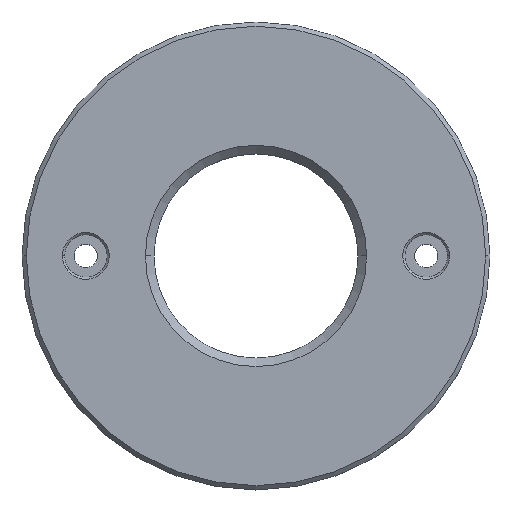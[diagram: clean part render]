
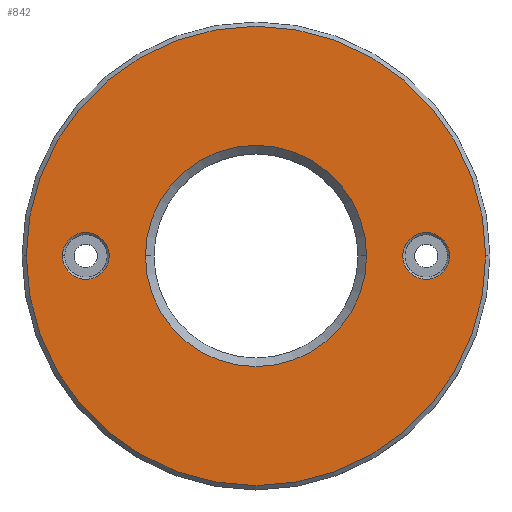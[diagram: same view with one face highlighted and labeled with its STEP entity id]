
A CAD part, top view. The second image highlights one B-rep face of the part: STEP entity #842.
In plain terms, the highlighted planar face has unit normal (0, 0, 1).
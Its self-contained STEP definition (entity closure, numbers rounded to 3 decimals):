
#1 = AXIS2_PLACEMENT_3D ( 'NONE', #379, #293, #351 ) ;
#2 = CARTESIAN_POINT ( 'NONE',  ( -54., 0., 0. ) ) ;
#26 = EDGE_CURVE ( 'NONE', #577, #708, #313, .T. ) ;
#29 = EDGE_LOOP ( 'NONE', ( #553, #287 ) ) ;
#35 = EDGE_CURVE ( 'NONE', #948, #492, #865, .T. ) ;
#51 = VERTEX_POINT ( 'NONE', #765 ) ;
#98 = AXIS2_PLACEMENT_3D ( 'NONE', #456, #649, #952 ) ;
#128 = CIRCLE ( 'NONE', #98, 54. ) ;
#137 = FACE_BOUND ( 'NONE', #734, .T. ) ;
#173 = DIRECTION ( 'NONE',  ( 1., 0., 0. ) ) ;
#183 = VERTEX_POINT ( 'NONE', #385 ) ;
#186 = AXIS2_PLACEMENT_3D ( 'NONE', #680, #981, #450 ) ;
#198 = DIRECTION ( 'NONE',  ( 1., 0., 0. ) ) ;
#241 = ORIENTED_EDGE ( 'NONE', *, *, #35, .T. ) ;
#287 = ORIENTED_EDGE ( 'NONE', *, *, #511, .T. ) ;
#293 = DIRECTION ( 'NONE',  ( 0., 0., -1. ) ) ;
#306 = EDGE_CURVE ( 'NONE', #51, #519, #478, .T. ) ;
#312 = CARTESIAN_POINT ( 'NONE',  ( 40., 0., 0. ) ) ;
#313 = CIRCLE ( 'NONE', #695, 54. ) ;
#324 = VERTEX_POINT ( 'NONE', #957 ) ;
#328 = CIRCLE ( 'NONE', #711, 26. ) ;
#351 = DIRECTION ( 'NONE',  ( 1., 0., 0. ) ) ;
#367 = DIRECTION ( 'NONE',  ( 0., 0., -1. ) ) ;
#379 = CARTESIAN_POINT ( 'NONE',  ( -40., 0., 0. ) ) ;
#385 = CARTESIAN_POINT ( 'NONE',  ( -26., 0., 0. ) ) ;
#425 = CARTESIAN_POINT ( 'NONE',  ( 40., 0., 0. ) ) ;
#450 = DIRECTION ( 'NONE',  ( 1., 0., 0. ) ) ;
#456 = CARTESIAN_POINT ( 'NONE',  ( 0., 0., 0. ) ) ;
#463 = ORIENTED_EDGE ( 'NONE', *, *, #834, .T. ) ;
#478 = CIRCLE ( 'NONE', #525, 5.5 ) ;
#482 = CIRCLE ( 'NONE', #1, 5.5 ) ;
#492 = VERTEX_POINT ( 'NONE', #921 ) ;
#502 = FACE_BOUND ( 'NONE', #703, .T. ) ;
#511 = EDGE_CURVE ( 'NONE', #183, #324, #328, .T. ) ;
#519 = VERTEX_POINT ( 'NONE', #846 ) ;
#522 = CARTESIAN_POINT ( 'NONE',  ( 0., 0., 0. ) ) ;
#525 = AXIS2_PLACEMENT_3D ( 'NONE', #796, #367, #736 ) ;
#542 = DIRECTION ( 'NONE',  ( 0., 0., -1. ) ) ;
#553 = ORIENTED_EDGE ( 'NONE', *, *, #574, .T. ) ;
#566 = CIRCLE ( 'NONE', #719, 5.5 ) ;
#574 = EDGE_CURVE ( 'NONE', #324, #183, #958, .T. ) ;
#577 = VERTEX_POINT ( 'NONE', #2 ) ;
#597 = PLANE ( 'NONE',  #186 ) ;
#609 = CARTESIAN_POINT ( 'NONE',  ( 0., 0., 0. ) ) ;
#626 = DIRECTION ( 'NONE',  ( 0., 0., -1. ) ) ;
#635 = ORIENTED_EDGE ( 'NONE', *, *, #306, .T. ) ;
#637 = ORIENTED_EDGE ( 'NONE', *, *, #939, .T. ) ;
#649 = DIRECTION ( 'NONE',  ( 0., 0., 1. ) ) ;
#680 = CARTESIAN_POINT ( 'NONE',  ( 0., 0., 0. ) ) ;
#684 = DIRECTION ( 'NONE',  ( 1., 0., 0. ) ) ;
#685 = ORIENTED_EDGE ( 'NONE', *, *, #26, .T. ) ;
#695 = AXIS2_PLACEMENT_3D ( 'NONE', #609, #929, #923 ) ;
#703 = EDGE_LOOP ( 'NONE', ( #635, #891 ) ) ;
#708 = VERTEX_POINT ( 'NONE', #788 ) ;
#711 = AXIS2_PLACEMENT_3D ( 'NONE', #770, #781, #173 ) ;
#719 = AXIS2_PLACEMENT_3D ( 'NONE', #425, #626, #198 ) ;
#734 = EDGE_LOOP ( 'NONE', ( #241, #463 ) ) ;
#736 = DIRECTION ( 'NONE',  ( 1., 0., 0. ) ) ;
#749 = CARTESIAN_POINT ( 'NONE',  ( 45.5, 0., 0. ) ) ;
#765 = CARTESIAN_POINT ( 'NONE',  ( -34.5, 0., 0. ) ) ;
#770 = CARTESIAN_POINT ( 'NONE',  ( 0., 0., 0. ) ) ;
#781 = DIRECTION ( 'NONE',  ( 0., 0., -1. ) ) ;
#788 = CARTESIAN_POINT ( 'NONE',  ( 54., 0., 0. ) ) ;
#796 = CARTESIAN_POINT ( 'NONE',  ( -40., 0., 0. ) ) ;
#834 = EDGE_CURVE ( 'NONE', #492, #948, #566, .T. ) ;
#842 = ADVANCED_FACE ( 'NONE', ( #502, #137, #972, #905 ), #597, .T. ) ;
#846 = CARTESIAN_POINT ( 'NONE',  ( -45.5, 0., 0. ) ) ;
#850 = DIRECTION ( 'NONE',  ( 1., 0., 0. ) ) ;
#865 = CIRCLE ( 'NONE', #950, 5.5 ) ;
#880 = AXIS2_PLACEMENT_3D ( 'NONE', #522, #979, #684 ) ;
#891 = ORIENTED_EDGE ( 'NONE', *, *, #906, .T. ) ;
#905 = FACE_OUTER_BOUND ( 'NONE', #938, .T. ) ;
#906 = EDGE_CURVE ( 'NONE', #519, #51, #482, .T. ) ;
#921 = CARTESIAN_POINT ( 'NONE',  ( 34.5, 0., 0. ) ) ;
#923 = DIRECTION ( 'NONE',  ( 1., 0., 0. ) ) ;
#929 = DIRECTION ( 'NONE',  ( 0., 0., 1. ) ) ;
#938 = EDGE_LOOP ( 'NONE', ( #685, #637 ) ) ;
#939 = EDGE_CURVE ( 'NONE', #708, #577, #128, .T. ) ;
#948 = VERTEX_POINT ( 'NONE', #749 ) ;
#950 = AXIS2_PLACEMENT_3D ( 'NONE', #312, #542, #850 ) ;
#952 = DIRECTION ( 'NONE',  ( 1., 0., 0. ) ) ;
#957 = CARTESIAN_POINT ( 'NONE',  ( 26., 0., 0. ) ) ;
#958 = CIRCLE ( 'NONE', #880, 26. ) ;
#972 = FACE_BOUND ( 'NONE', #29, .T. ) ;
#979 = DIRECTION ( 'NONE',  ( 0., 0., -1. ) ) ;
#981 = DIRECTION ( 'NONE',  ( 0., 0., 1. ) ) ;
